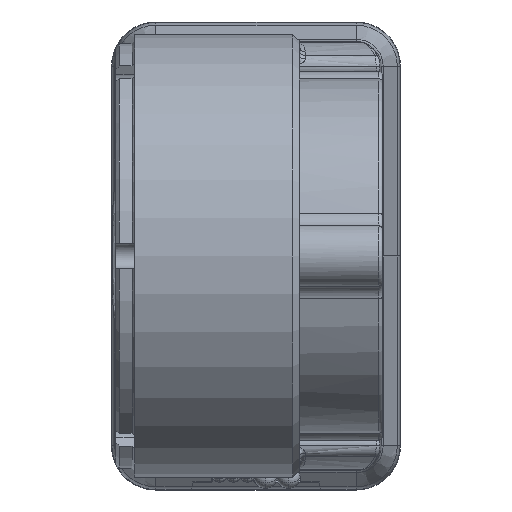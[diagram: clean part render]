
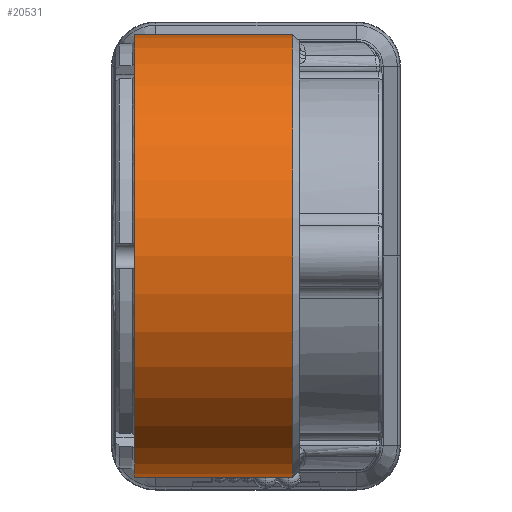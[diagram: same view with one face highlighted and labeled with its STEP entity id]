
A CAD part, front view. The second image highlights one B-rep face of the part: STEP entity #20531.
In plain terms, the highlighted cylindrical face has radius 17.5 mm (diameter 35 mm), a partial arc.
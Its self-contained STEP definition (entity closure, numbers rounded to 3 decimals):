
#2199 = CARTESIAN_POINT ( 'NONE',  ( -2.3, 0., 0. ) ) ;
#2277 = VECTOR ( 'NONE', #24040, 1000. ) ;
#4567 = ORIENTED_EDGE ( 'NONE', *, *, #8456, .T. ) ;
#5323 = CARTESIAN_POINT ( 'NONE',  ( 10.2, 0., 17.5 ) ) ;
#6466 = DIRECTION ( 'NONE',  ( 1., 0., 0. ) ) ;
#8456 = EDGE_CURVE ( 'NONE', #32197, #51600, #31049, .T. ) ;
#9114 = CYLINDRICAL_SURFACE ( 'NONE', #41873, 17.5 ) ;
#9830 = VECTOR ( 'NONE', #14518, 1000. ) ;
#10252 = VERTEX_POINT ( 'NONE', #25852 ) ;
#12246 = AXIS2_PLACEMENT_3D ( 'NONE', #2199, #6466, #22587 ) ;
#14257 = DIRECTION ( 'NONE',  ( 0., 0., -1. ) ) ;
#14518 = DIRECTION ( 'NONE',  ( 1., 0., 0. ) ) ;
#14874 = CARTESIAN_POINT ( 'NONE',  ( -4.001, 0., -17.5 ) ) ;
#14925 = LINE ( 'NONE', #14874, #9830 ) ;
#15923 = ORIENTED_EDGE ( 'NONE', *, *, #21855, .T. ) ;
#20531 = ADVANCED_FACE ( 'NONE', ( #27546 ), #9114, .T. ) ;
#21176 = ORIENTED_EDGE ( 'NONE', *, *, #34380, .F. ) ;
#21334 = LINE ( 'NONE', #27945, #2277 ) ;
#21855 = EDGE_CURVE ( 'NONE', #51600, #10252, #14925, .T. ) ;
#22324 = CARTESIAN_POINT ( 'NONE',  ( -2.3, 0., -17.5 ) ) ;
#22587 = DIRECTION ( 'NONE',  ( 0., 0., 1. ) ) ;
#24040 = DIRECTION ( 'NONE',  ( 1., 0., 0. ) ) ;
#25816 = ORIENTED_EDGE ( 'NONE', *, *, #43628, .T. ) ;
#25852 = CARTESIAN_POINT ( 'NONE',  ( 10.2, 0., -17.5 ) ) ;
#27546 = FACE_OUTER_BOUND ( 'NONE', #36189, .T. ) ;
#27945 = CARTESIAN_POINT ( 'NONE',  ( -4.001, 0., 17.5 ) ) ;
#31049 = CIRCLE ( 'NONE', #12246, 17.5 ) ;
#32197 = VERTEX_POINT ( 'NONE', #47787 ) ;
#32258 = DIRECTION ( 'NONE',  ( 0., 0., 1. ) ) ;
#34380 = EDGE_CURVE ( 'NONE', #32197, #36424, #21334, .T. ) ;
#36141 = CARTESIAN_POINT ( 'NONE',  ( 10.2, 0., 0. ) ) ;
#36189 = EDGE_LOOP ( 'NONE', ( #21176, #4567, #15923, #25816 ) ) ;
#36424 = VERTEX_POINT ( 'NONE', #5323 ) ;
#40516 = AXIS2_PLACEMENT_3D ( 'NONE', #36141, #44797, #32258 ) ;
#41763 = CARTESIAN_POINT ( 'NONE',  ( -4.001, 0., 0. ) ) ;
#41873 = AXIS2_PLACEMENT_3D ( 'NONE', #41763, #45953, #14257 ) ;
#43628 = EDGE_CURVE ( 'NONE', #10252, #36424, #43820, .T. ) ;
#43820 = CIRCLE ( 'NONE', #40516, 17.5 ) ;
#44797 = DIRECTION ( 'NONE',  ( -1., 0., 0. ) ) ;
#45953 = DIRECTION ( 'NONE',  ( 1., 0., 0. ) ) ;
#47787 = CARTESIAN_POINT ( 'NONE',  ( -2.3, 0., 17.5 ) ) ;
#51600 = VERTEX_POINT ( 'NONE', #22324 ) ;
